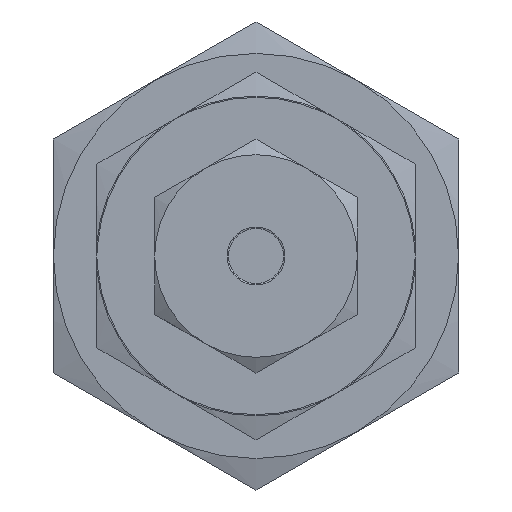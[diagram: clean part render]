
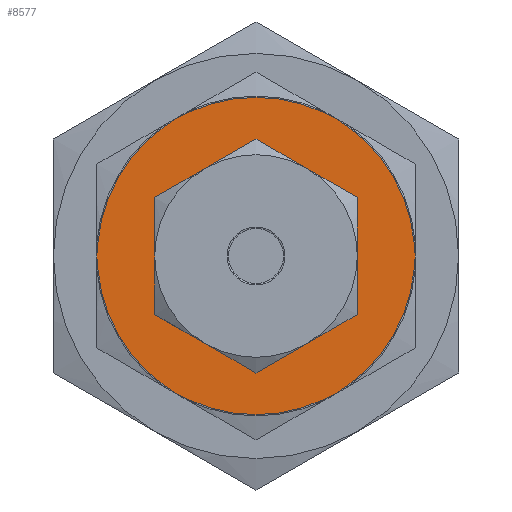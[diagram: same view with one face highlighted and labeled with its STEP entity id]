
A CAD part, left-side view. The second image highlights one B-rep face of the part: STEP entity #8577.
In plain terms, the highlighted planar face has unit normal (-1, 0, 0).
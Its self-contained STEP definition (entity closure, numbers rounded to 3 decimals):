
#1036=PLANE('',#8978);
#1325=B_SPLINE_CURVE_WITH_KNOTS('',3,(#13943,#13944,#13945,#13946),
 .UNSPECIFIED.,.F.,.F.,(4,4),(0.,0.001),.UNSPECIFIED.);
#1326=B_SPLINE_CURVE_WITH_KNOTS('',3,(#13948,#13949,#13950,#13951),
 .UNSPECIFIED.,.F.,.F.,(4,4),(0.,0.001),
 .UNSPECIFIED.);
#1327=B_SPLINE_CURVE_WITH_KNOTS('',3,(#13955,#13956,#13957,#13958),
 .UNSPECIFIED.,.F.,.F.,(4,4),(0.,0.001),.UNSPECIFIED.);
#1328=B_SPLINE_CURVE_WITH_KNOTS('',3,(#13960,#13961,#13962,#13963),
 .UNSPECIFIED.,.F.,.F.,(4,4),(0.,0.001),
 .UNSPECIFIED.);
#1329=B_SPLINE_CURVE_WITH_KNOTS('',3,(#13967,#13968,#13969,#13970),
 .UNSPECIFIED.,.F.,.F.,(4,4),(0.,0.001),.UNSPECIFIED.);
#1330=B_SPLINE_CURVE_WITH_KNOTS('',3,(#13972,#13973,#13974,#13975),
 .UNSPECIFIED.,.F.,.F.,(4,4),(0.,0.001),.UNSPECIFIED.);
#1331=B_SPLINE_CURVE_WITH_KNOTS('',3,(#13979,#13980,#13981,#13982),
 .UNSPECIFIED.,.F.,.F.,(4,4),(0.,0.001),.UNSPECIFIED.);
#1332=B_SPLINE_CURVE_WITH_KNOTS('',3,(#13984,#13985,#13986,#13987),
 .UNSPECIFIED.,.F.,.F.,(4,4),(0.,0.001),.UNSPECIFIED.);
#1333=B_SPLINE_CURVE_WITH_KNOTS('',3,(#13991,#13992,#13993,#13994),
 .UNSPECIFIED.,.F.,.F.,(4,4),(0.,0.001),.UNSPECIFIED.);
#1334=B_SPLINE_CURVE_WITH_KNOTS('',3,(#13996,#13997,#13998,#13999),
 .UNSPECIFIED.,.F.,.F.,(4,4),(0.,0.001),.UNSPECIFIED.);
#1335=B_SPLINE_CURVE_WITH_KNOTS('',3,(#14003,#14004,#14005,#14006),
 .UNSPECIFIED.,.F.,.F.,(4,4),(0.,0.001),.UNSPECIFIED.);
#1336=B_SPLINE_CURVE_WITH_KNOTS('',3,(#14008,#14009,#14010,#14011),
 .UNSPECIFIED.,.F.,.F.,(4,4),(0.,0.001),.UNSPECIFIED.);
#1555=CIRCLE('',#8979,3.378);
#1556=CIRCLE('',#8980,8.698);
#1557=CIRCLE('',#8981,8.698);
#1558=CIRCLE('',#8982,8.698);
#1559=CIRCLE('',#8983,8.698);
#1560=CIRCLE('',#8984,8.698);
#1561=CIRCLE('',#8985,8.698);
#2984=ORIENTED_EDGE('',*,*,#4105,.T.);
#2985=ORIENTED_EDGE('',*,*,#4106,.T.);
#2986=ORIENTED_EDGE('',*,*,#4107,.T.);
#2987=ORIENTED_EDGE('',*,*,#4108,.T.);
#2988=ORIENTED_EDGE('',*,*,#4109,.T.);
#2989=ORIENTED_EDGE('',*,*,#4110,.T.);
#2990=ORIENTED_EDGE('',*,*,#4111,.T.);
#2991=ORIENTED_EDGE('',*,*,#4112,.T.);
#2992=ORIENTED_EDGE('',*,*,#4113,.T.);
#2993=ORIENTED_EDGE('',*,*,#4114,.T.);
#2994=ORIENTED_EDGE('',*,*,#4115,.T.);
#2995=ORIENTED_EDGE('',*,*,#4116,.T.);
#2996=ORIENTED_EDGE('',*,*,#4117,.T.);
#2997=ORIENTED_EDGE('',*,*,#4118,.T.);
#2998=ORIENTED_EDGE('',*,*,#4119,.T.);
#2999=ORIENTED_EDGE('',*,*,#4120,.T.);
#3000=ORIENTED_EDGE('',*,*,#4121,.T.);
#3001=ORIENTED_EDGE('',*,*,#4122,.T.);
#3002=ORIENTED_EDGE('',*,*,#4123,.T.);
#4105=EDGE_CURVE('',#4763,#4763,#1555,.F.);
#4106=EDGE_CURVE('',#4764,#4765,#1556,.T.);
#4107=EDGE_CURVE('',#4765,#4766,#1325,.T.);
#4108=EDGE_CURVE('',#4766,#4767,#1326,.F.);
#4109=EDGE_CURVE('',#4767,#4768,#1557,.T.);
#4110=EDGE_CURVE('',#4768,#4769,#1327,.T.);
#4111=EDGE_CURVE('',#4769,#4770,#1328,.F.);
#4112=EDGE_CURVE('',#4770,#4771,#1558,.T.);
#4113=EDGE_CURVE('',#4771,#4772,#1329,.T.);
#4114=EDGE_CURVE('',#4772,#4773,#1330,.F.);
#4115=EDGE_CURVE('',#4773,#4774,#1559,.T.);
#4116=EDGE_CURVE('',#4774,#4775,#1331,.T.);
#4117=EDGE_CURVE('',#4775,#4776,#1332,.F.);
#4118=EDGE_CURVE('',#4776,#4777,#1560,.T.);
#4119=EDGE_CURVE('',#4777,#4778,#1333,.T.);
#4120=EDGE_CURVE('',#4778,#4779,#1334,.F.);
#4121=EDGE_CURVE('',#4779,#4780,#1561,.T.);
#4122=EDGE_CURVE('',#4780,#4781,#1335,.T.);
#4123=EDGE_CURVE('',#4781,#4764,#1336,.F.);
#4763=VERTEX_POINT('',#13939);
#4764=VERTEX_POINT('',#13941);
#4765=VERTEX_POINT('',#13942);
#4766=VERTEX_POINT('',#13947);
#4767=VERTEX_POINT('',#13952);
#4768=VERTEX_POINT('',#13954);
#4769=VERTEX_POINT('',#13959);
#4770=VERTEX_POINT('',#13964);
#4771=VERTEX_POINT('',#13966);
#4772=VERTEX_POINT('',#13971);
#4773=VERTEX_POINT('',#13976);
#4774=VERTEX_POINT('',#13978);
#4775=VERTEX_POINT('',#13983);
#4776=VERTEX_POINT('',#13988);
#4777=VERTEX_POINT('',#13990);
#4778=VERTEX_POINT('',#13995);
#4779=VERTEX_POINT('',#14000);
#4780=VERTEX_POINT('',#14002);
#4781=VERTEX_POINT('',#14007);
#5179=EDGE_LOOP('',(#2984));
#5180=EDGE_LOOP('',(#2985,#2986,#2987,#2988,#2989,#2990,#2991,#2992,#2993,
#2994,#2995,#2996,#2997,#2998,#2999,#3000,#3001,#3002));
#5593=FACE_BOUND('',#5179,.T.);
#5594=FACE_BOUND('',#5180,.T.);
#8577=ADVANCED_FACE('',(#5593,#5594),#1036,.T.);
#8978=AXIS2_PLACEMENT_3D('',#13937,#10067,#10068);
#8979=AXIS2_PLACEMENT_3D('',#13938,#10069,#10070);
#8980=AXIS2_PLACEMENT_3D('',#13940,#10071,#10072);
#8981=AXIS2_PLACEMENT_3D('',#13953,#10073,#10074);
#8982=AXIS2_PLACEMENT_3D('',#13965,#10075,#10076);
#8983=AXIS2_PLACEMENT_3D('',#13977,#10077,#10078);
#8984=AXIS2_PLACEMENT_3D('',#13989,#10079,#10080);
#8985=AXIS2_PLACEMENT_3D('',#14001,#10081,#10082);
#10067=DIRECTION('',(-1.,0.,0.));
#10068=DIRECTION('',(0.,0.,1.));
#10069=DIRECTION('',(-1.,0.,0.));
#10070=DIRECTION('',(0.,0.,1.));
#10071=DIRECTION('',(-1.,0.,0.));
#10072=DIRECTION('',(0.,0.,1.));
#10073=DIRECTION('',(-1.,0.,0.));
#10074=DIRECTION('',(0.,0.,1.));
#10075=DIRECTION('',(-1.,0.,0.));
#10076=DIRECTION('',(0.,0.,1.));
#10077=DIRECTION('',(-1.,0.,0.));
#10078=DIRECTION('',(0.,0.,1.));
#10079=DIRECTION('',(-1.,0.,0.));
#10080=DIRECTION('',(0.,0.,1.));
#10081=DIRECTION('',(-1.,0.,0.));
#10082=DIRECTION('',(0.,0.,1.));
#13937=CARTESIAN_POINT('',(-7.925,0.,-10.082));
#13938=CARTESIAN_POINT('',(-7.925,0.,0.));
#13939=CARTESIAN_POINT('',(-7.925,0.,3.378));
#13940=CARTESIAN_POINT('',(-7.925,0.,0.));
#13941=CARTESIAN_POINT('',(-7.925,8.666,-0.746));
#13942=CARTESIAN_POINT('',(-7.925,4.979,-7.132));
#13943=CARTESIAN_POINT('',(-7.925,4.979,-7.132));
#13944=CARTESIAN_POINT('',(-7.925,4.774,-7.275));
#13945=CARTESIAN_POINT('',(-7.925,4.57,-7.418));
#13946=CARTESIAN_POINT('',(-7.925,4.366,-7.561));
#13947=CARTESIAN_POINT('',(-7.925,4.366,-7.561));
#13948=CARTESIAN_POINT('',(-7.925,3.687,-7.878));
#13949=CARTESIAN_POINT('',(-7.925,3.913,-7.772));
#13950=CARTESIAN_POINT('',(-7.925,4.139,-7.667));
#13951=CARTESIAN_POINT('',(-7.925,4.366,-7.561));
#13952=CARTESIAN_POINT('',(-7.925,3.687,-7.878));
#13953=CARTESIAN_POINT('',(-7.925,0.,0.));
#13954=CARTESIAN_POINT('',(-7.925,-3.687,-7.878));
#13955=CARTESIAN_POINT('',(-7.925,-3.687,-7.878));
#13956=CARTESIAN_POINT('',(-7.925,-3.913,-7.772));
#13957=CARTESIAN_POINT('',(-7.925,-4.139,-7.667));
#13958=CARTESIAN_POINT('',(-7.925,-4.366,-7.561));
#13959=CARTESIAN_POINT('',(-7.925,-4.366,-7.561));
#13960=CARTESIAN_POINT('',(-7.925,-4.979,-7.132));
#13961=CARTESIAN_POINT('',(-7.925,-4.774,-7.275));
#13962=CARTESIAN_POINT('',(-7.925,-4.57,-7.418));
#13963=CARTESIAN_POINT('',(-7.925,-4.366,-7.561));
#13964=CARTESIAN_POINT('',(-7.925,-4.979,-7.132));
#13965=CARTESIAN_POINT('',(-7.925,0.,0.));
#13966=CARTESIAN_POINT('',(-7.925,-8.666,-0.746));
#13967=CARTESIAN_POINT('',(-7.925,-8.666,-0.746));
#13968=CARTESIAN_POINT('',(-7.925,-8.687,-0.497));
#13969=CARTESIAN_POINT('',(-7.925,-8.709,-0.249));
#13970=CARTESIAN_POINT('',(-7.925,-8.731,0.));
#13971=CARTESIAN_POINT('',(-7.925,-8.731,0.));
#13972=CARTESIAN_POINT('',(-7.925,-8.666,0.746));
#13973=CARTESIAN_POINT('',(-7.925,-8.687,0.497));
#13974=CARTESIAN_POINT('',(-7.925,-8.709,0.249));
#13975=CARTESIAN_POINT('',(-7.925,-8.731,0.));
#13976=CARTESIAN_POINT('',(-7.925,-8.666,0.746));
#13977=CARTESIAN_POINT('',(-7.925,0.,0.));
#13978=CARTESIAN_POINT('',(-7.925,-4.979,7.132));
#13979=CARTESIAN_POINT('',(-7.925,-4.979,7.132));
#13980=CARTESIAN_POINT('',(-7.925,-4.774,7.275));
#13981=CARTESIAN_POINT('',(-7.925,-4.57,7.418));
#13982=CARTESIAN_POINT('',(-7.925,-4.366,7.561));
#13983=CARTESIAN_POINT('',(-7.925,-4.366,7.561));
#13984=CARTESIAN_POINT('',(-7.925,-3.687,7.878));
#13985=CARTESIAN_POINT('',(-7.925,-3.913,7.772));
#13986=CARTESIAN_POINT('',(-7.925,-4.139,7.667));
#13987=CARTESIAN_POINT('',(-7.925,-4.366,7.561));
#13988=CARTESIAN_POINT('',(-7.925,-3.687,7.878));
#13989=CARTESIAN_POINT('',(-7.925,0.,0.));
#13990=CARTESIAN_POINT('',(-7.925,3.687,7.878));
#13991=CARTESIAN_POINT('',(-7.925,3.687,7.878));
#13992=CARTESIAN_POINT('',(-7.925,3.913,7.772));
#13993=CARTESIAN_POINT('',(-7.925,4.139,7.667));
#13994=CARTESIAN_POINT('',(-7.925,4.366,7.561));
#13995=CARTESIAN_POINT('',(-7.925,4.366,7.561));
#13996=CARTESIAN_POINT('',(-7.925,4.979,7.132));
#13997=CARTESIAN_POINT('',(-7.925,4.774,7.275));
#13998=CARTESIAN_POINT('',(-7.925,4.57,7.418));
#13999=CARTESIAN_POINT('',(-7.925,4.366,7.561));
#14000=CARTESIAN_POINT('',(-7.925,4.979,7.132));
#14001=CARTESIAN_POINT('',(-7.925,0.,0.));
#14002=CARTESIAN_POINT('',(-7.925,8.666,0.746));
#14003=CARTESIAN_POINT('',(-7.925,8.666,0.746));
#14004=CARTESIAN_POINT('',(-7.925,8.687,0.497));
#14005=CARTESIAN_POINT('',(-7.925,8.709,0.249));
#14006=CARTESIAN_POINT('',(-7.925,8.731,0.));
#14007=CARTESIAN_POINT('',(-7.925,8.731,0.));
#14008=CARTESIAN_POINT('',(-7.925,8.666,-0.746));
#14009=CARTESIAN_POINT('',(-7.925,8.687,-0.497));
#14010=CARTESIAN_POINT('',(-7.925,8.709,-0.249));
#14011=CARTESIAN_POINT('',(-7.925,8.731,0.));
